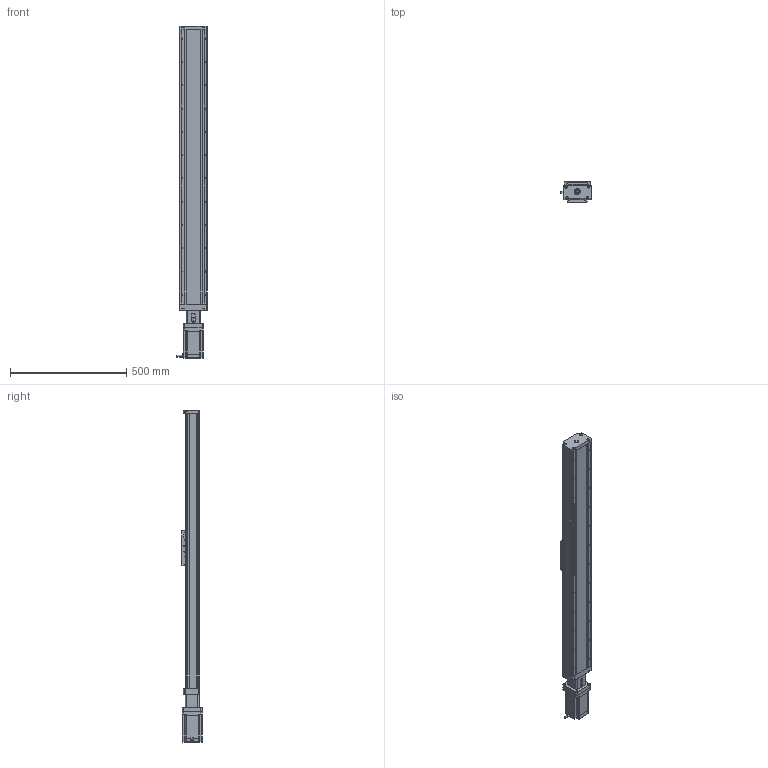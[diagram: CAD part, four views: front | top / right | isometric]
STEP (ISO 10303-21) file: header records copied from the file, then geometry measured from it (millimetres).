
FILE_DESCRIPTION (( 'STEP AP203' ), '1' );
FILE_NAME ('PCH120C7L10E1000BC.STEP', '2023-05-04T08:41:42', ( '' ), ( '' ), 'SwSTEP 2.0', 'SolidWorks 2021', '' );
FILE_SCHEMA (( 'CONFIG_CONTROL_DESIGN' ));
Length unit declared in the file: millimetre
Products named in the file (19): 蟀諉輸ㄗ120Sㄘ; FLK8-4055 繩豪薊粣ん_FLK8-4055-1720; HRH15-1190_佪裝 俴最1000; 萇儂蟀諉楊擘ㄗ86ㄘ; PCH120C7L10E1000BC; 6000 旮僱⑩粣創; HGH15CA（方） 方滑块; ヶ蟀諉啣ㄗ120Sㄘ; 7201C 褒諉揖⑩粣創; 120臏倰第-1180; 佪裝SFS16-120-1246; 滅袉輸ㄗ120Sㄘ; 佪裝蹟譫SFE2020; 迍啣ㄗ120Sㄘ; 祥凄詩湍-1200; 裔啣ㄗ120Sㄘ; FM86128SJT03 步进电机_不带刹车; 綴蟀諉啣ㄗ120Sㄘ; 60萇儂徹傾釱
Assembly tree (24 placements, depth 2):
  PCH120C7L10E1000BC
    120臏倰第-1180
    HRH15-1190_佪裝 俴最1000  x2
    HGH15CA（方） 方滑块  x4
    蟀諉輸ㄗ120Sㄘ
    佪裝蹟譫SFE2020
    綴蟀諉啣ㄗ120Sㄘ
    ヶ蟀諉啣ㄗ120Sㄘ
    60萇儂徹傾釱
    6000 旮僱⑩粣創
    7201C 褒諉揖⑩粣創  x2
    佪裝SFS16-120-1246
    迍啣ㄗ120Sㄘ
    裔啣ㄗ120Sㄘ
    FLK8-4055 繩豪薊粣ん_FLK8-4055-1720
    滅袉輸ㄗ120Sㄘ  x2
    萇儂蟀諉楊擘ㄗ86ㄘ
    FM86128SJT03 步进电机_不带刹车
    祥凄詩湍-1200
Bounding box: 131 x 86.5 x 1427 mm (x, y, z)
Volume: 4721001.9 mm3; surface area: 1598227.9 mm2
Topology: 28 solids, 28 shells, 2887 faces, 7516 edges, 4663 vertices
Faces by surface type: plane 1162, cylinder 1095, cone 366, bspline 190, torus 54, sphere 20
Entity records: 70557 total; most frequent: CARTESIAN_POINT 15896, DIRECTION 11170, ORIENTED_EDGE 10942, EDGE_CURVE 5471, AXIS2_PLACEMENT_3D 4257, VERTEX_POINT 3455, VECTOR 2656, LINE 2656
